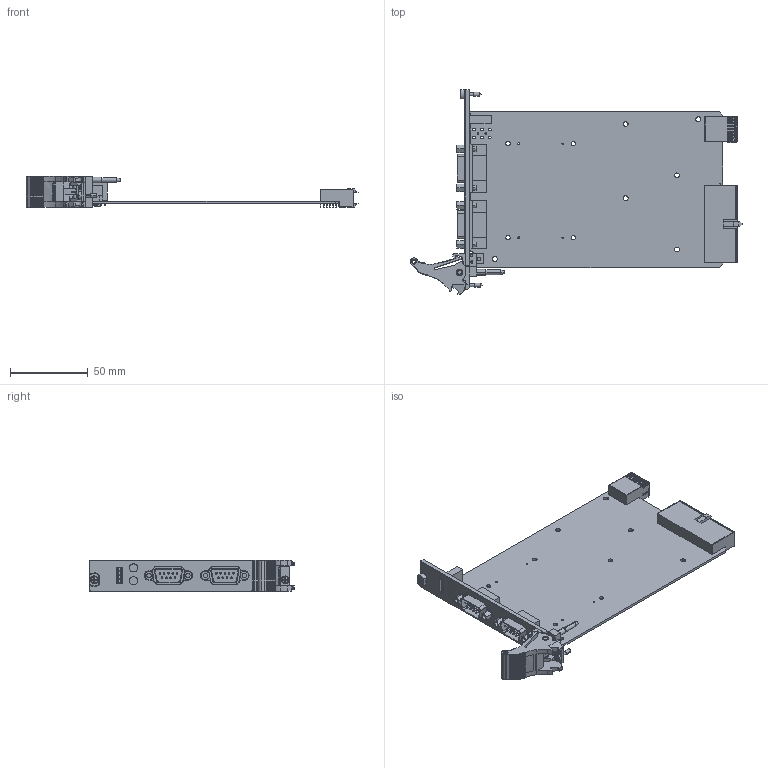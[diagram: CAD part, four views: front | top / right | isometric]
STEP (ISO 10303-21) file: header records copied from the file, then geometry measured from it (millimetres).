
FILE_DESCRIPTION((''),'2;1');
FILE_NAME('CU_PXI-8511_2','2009-02-19T',('dcrowder'),(''),'PRO/ENGINEER BY PARAMETRIC TECHNOLOGY CORPORATION, 2006080','PRO/ENGINEER BY PARAMETRIC TECHNOLOGY CORPORATION, 2006080','');
FILE_SCHEMA(('CONFIG_CONTROL_DESIGN'));
Products named in the file (1): CU_PXI-8511_2
Bounding box: 213.24 x 131.56 x 20.19 mm (x, y, z)
Volume: 57002.3 mm3; surface area: 55857.7 mm2
Topology: 2 solids, 2 shells, 2493 faces, 6457 edges, 4178 vertices
Faces by surface type: plane 1616, cylinder 736, bspline 65, cone 38, sphere 22, torus 12, extrusion 4
Entity records: 86983 total; most frequent: CARTESIAN_POINT 25016, ORIENTED_EDGE 12898, DIRECTION 12650, EDGE_CURVE 6449, VECTOR 4450, LINE 4446, VERTEX_POINT 4197, AXIS2_PLACEMENT_3D 4100
